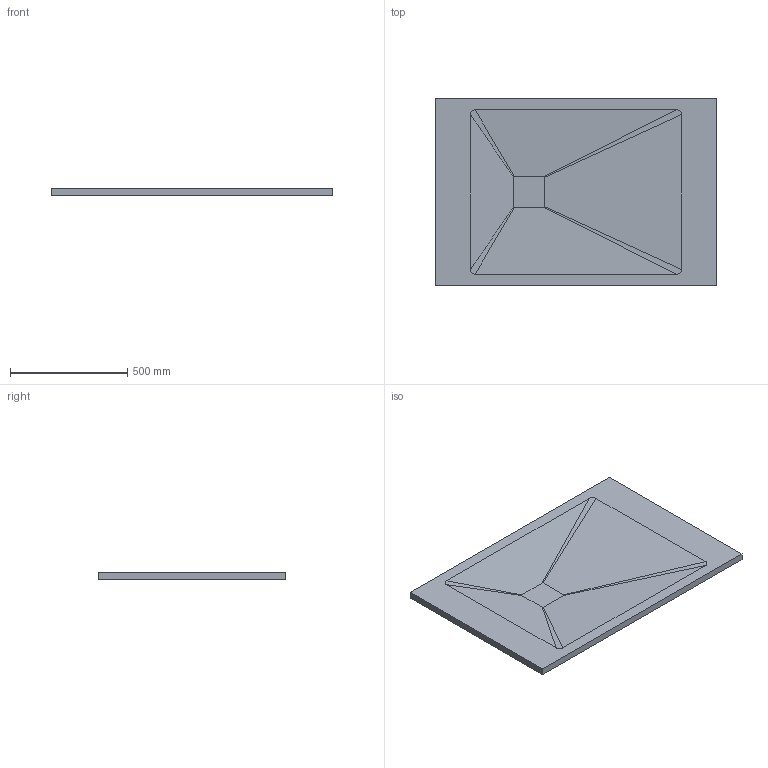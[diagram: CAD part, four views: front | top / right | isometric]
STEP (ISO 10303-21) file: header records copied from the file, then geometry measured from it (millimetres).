
FILE_DESCRIPTION(('STEP AP203'),'2;1');
FILE_NAME('1200x800 09-04-2017.stp','2017-04-09T19:39:56',(''),(''),'2014.1.117','THINKDESIGN','');
FILE_SCHEMA(('CONFIG_CONTROL_DESIGN'));
Length unit declared in the file: millimetre
Bounding box: 1200 x 800 x 30 mm (x, y, z)
Volume: 14397189.3 mm3; surface area: 2184384.9 mm2
Topology: 1 solids, 1 shells, 582 faces, 1370 edges, 714 vertices
Faces by surface type: cylinder 238, bspline 176, plane 168
Entity records: 32731 total; most frequent: CARTESIAN_POINT 20428, ORIENTED_EDGE 2528, DIRECTION 2476, EDGE_CURVE 1264, AXIS2_PLACEMENT_3D 908, VERTEX_POINT 714, VECTOR 660, LINE 660
